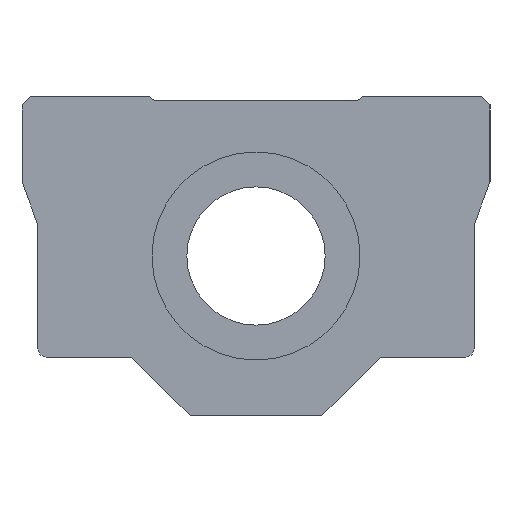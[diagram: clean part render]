
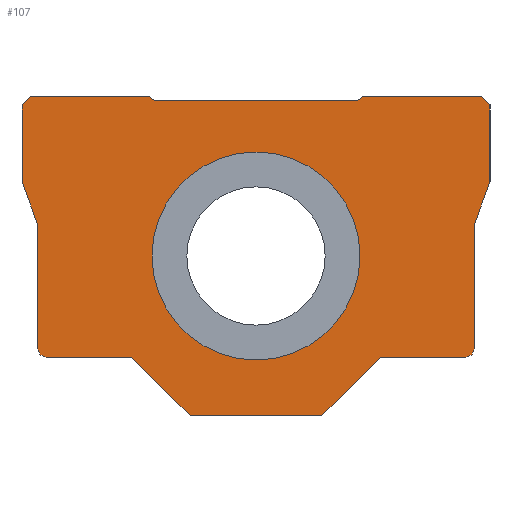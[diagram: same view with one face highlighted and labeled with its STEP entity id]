
A CAD part, left-side view. The second image highlights one B-rep face of the part: STEP entity #107.
In plain terms, the highlighted planar face has unit normal (-1, 0, 0).
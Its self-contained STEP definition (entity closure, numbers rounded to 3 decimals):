
#107 = ADVANCED_FACE( '', ( #237, #238 ), #239, .F. );
#237 = FACE_BOUND( '', #388, .T. );
#238 = FACE_OUTER_BOUND( '', #389, .T. );
#239 = PLANE( '', #390 );
#388 = EDGE_LOOP( '', ( #622 ) );
#389 = EDGE_LOOP( '', ( #623, #624, #625, #626, #627, #628, #629, #630, #631, #632, #633, #634, #635, #636, #637, #638, #639, #640, #641, #642 ) );
#390 = AXIS2_PLACEMENT_3D( '', #643, #644, #645 );
#622 = ORIENTED_EDGE( '', *, *, #862, .T. );
#623 = ORIENTED_EDGE( '', *, *, #830, .F. );
#624 = ORIENTED_EDGE( '', *, *, #857, .F. );
#625 = ORIENTED_EDGE( '', *, *, #848, .F. );
#626 = ORIENTED_EDGE( '', *, *, #863, .F. );
#627 = ORIENTED_EDGE( '', *, *, #810, .F. );
#628 = ORIENTED_EDGE( '', *, *, #864, .F. );
#629 = ORIENTED_EDGE( '', *, *, #839, .F. );
#630 = ORIENTED_EDGE( '', *, *, #854, .F. );
#631 = ORIENTED_EDGE( '', *, *, #865, .F. );
#632 = ORIENTED_EDGE( '', *, *, #834, .F. );
#633 = ORIENTED_EDGE( '', *, *, #866, .F. );
#634 = ORIENTED_EDGE( '', *, *, #789, .T. );
#635 = ORIENTED_EDGE( '', *, *, #824, .T. );
#636 = ORIENTED_EDGE( '', *, *, #814, .T. );
#637 = ORIENTED_EDGE( '', *, *, #804, .F. );
#638 = ORIENTED_EDGE( '', *, *, #860, .F. );
#639 = ORIENTED_EDGE( '', *, *, #776, .F. );
#640 = ORIENTED_EDGE( '', *, *, #819, .F. );
#641 = ORIENTED_EDGE( '', *, *, #867, .F. );
#642 = ORIENTED_EDGE( '', *, *, #781, .F. );
#643 = CARTESIAN_POINT( '', ( 0., 0., 0. ) );
#644 = DIRECTION( '', ( 1., 0., 0. ) );
#645 = DIRECTION( '', ( 0., 1., 0. ) );
#776 = EDGE_CURVE( '', #898, #900, #901, .T. );
#781 = EDGE_CURVE( '', #907, #909, #910, .T. );
#789 = EDGE_CURVE( '', #923, #921, #924, .T. );
#804 = EDGE_CURVE( '', #947, #942, #949, .T. );
#810 = EDGE_CURVE( '', #958, #960, #961, .T. );
#814 = EDGE_CURVE( '', #966, #942, #967, .T. );
#819 = EDGE_CURVE( '', #972, #898, #974, .T. );
#824 = EDGE_CURVE( '', #921, #966, #980, .T. );
#830 = EDGE_CURVE( '', #988, #907, #990, .T. );
#834 = EDGE_CURVE( '', #995, #997, #998, .T. );
#839 = EDGE_CURVE( '', #1004, #1006, #1007, .T. );
#848 = EDGE_CURVE( '', #1020, #1015, #1022, .T. );
#854 = EDGE_CURVE( '', #1029, #1004, #1031, .T. );
#857 = EDGE_CURVE( '', #1015, #988, #1034, .T. );
#860 = EDGE_CURVE( '', #900, #947, #1037, .T. );
#862 = EDGE_CURVE( '', #1039, #1039, #1040, .T. );
#863 = EDGE_CURVE( '', #960, #1020, #1041, .T. );
#864 = EDGE_CURVE( '', #1006, #958, #1042, .T. );
#865 = EDGE_CURVE( '', #997, #1029, #1043, .T. );
#866 = EDGE_CURVE( '', #923, #995, #1044, .T. );
#867 = EDGE_CURVE( '', #909, #972, #1045, .T. );
#898 = VERTEX_POINT( '', #1082 );
#900 = VERTEX_POINT( '', #1085 );
#901 = LINE( '', #1086, #1087 );
#907 = VERTEX_POINT( '', #1094 );
#909 = VERTEX_POINT( '', #1097 );
#910 = CIRCLE( '', #1098, 0.8 );
#921 = VERTEX_POINT( '', #1111 );
#923 = VERTEX_POINT( '', #1114 );
#924 = LINE( '', #1115, #1116 );
#942 = VERTEX_POINT( '', #1135 );
#947 = VERTEX_POINT( '', #1142 );
#949 = LINE( '', #1145, #1146 );
#958 = VERTEX_POINT( '', #1156 );
#960 = VERTEX_POINT( '', #1159 );
#961 = LINE( '', #1160, #1161 );
#966 = VERTEX_POINT( '', #1168 );
#967 = LINE( '', #1169, #1170 );
#972 = VERTEX_POINT( '', #1177 );
#974 = LINE( '', #1180, #1181 );
#980 = LINE( '', #1188, #1189 );
#988 = VERTEX_POINT( '', #1198 );
#990 = LINE( '', #1201, #1202 );
#995 = VERTEX_POINT( '', #1208 );
#997 = VERTEX_POINT( '', #1211 );
#998 = LINE( '', #1212, #1213 );
#1004 = VERTEX_POINT( '', #1221 );
#1006 = VERTEX_POINT( '', #1224 );
#1007 = LINE( '', #1225, #1226 );
#1015 = VERTEX_POINT( '', #1235 );
#1020 = VERTEX_POINT( '', #1242 );
#1022 = LINE( '', #1245, #1246 );
#1029 = VERTEX_POINT( '', #1254 );
#1031 = LINE( '', #1257, #1258 );
#1034 = LINE( '', #1262, #1263 );
#1037 = LINE( '', #1267, #1268 );
#1039 = VERTEX_POINT( '', #1270 );
#1040 = CIRCLE( '', #1271, 9.775 );
#1041 = LINE( '', #1272, #1273 );
#1042 = CIRCLE( '', #1274, 0.8 );
#1043 = LINE( '', #1275, #1276 );
#1044 = LINE( '', #1277, #1278 );
#1045 = LINE( '', #1279, #1280 );
#1082 = CARTESIAN_POINT( '', ( 0., 22., 7. ) );
#1085 = CARTESIAN_POINT( '', ( 0., 22., 14.2 ) );
#1086 = CARTESIAN_POINT( '', ( 0., 22., 7. ) );
#1087 = VECTOR( '', #1318, 1000. );
#1094 = CARTESIAN_POINT( '', ( 0., 19.7, -9.5 ) );
#1097 = CARTESIAN_POINT( '', ( 0., 20.5, -8.7 ) );
#1098 = AXIS2_PLACEMENT_3D( '', #1324, #1325, #1326 );
#1111 = CARTESIAN_POINT( '', ( 0., -9.5, 14.6 ) );
#1114 = CARTESIAN_POINT( '', ( 0., -10., 15. ) );
#1115 = CARTESIAN_POINT( '', ( 0., -3.043, 9.434 ) );
#1116 = VECTOR( '', #1336, 1000. );
#1135 = CARTESIAN_POINT( '', ( 0., 10., 15. ) );
#1142 = CARTESIAN_POINT( '', ( 0., 21.2, 15. ) );
#1145 = CARTESIAN_POINT( '', ( 0., 21.2, 15. ) );
#1146 = VECTOR( '', #1359, 1000. );
#1156 = CARTESIAN_POINT( '', ( 0., -19.7, -9.5 ) );
#1159 = CARTESIAN_POINT( '', ( 0., -11.698, -9.5 ) );
#1160 = CARTESIAN_POINT( '', ( 0., -19.7, -9.5 ) );
#1161 = VECTOR( '', #1368, 1000. );
#1168 = CARTESIAN_POINT( '', ( 0., 9.5, 14.6 ) );
#1169 = CARTESIAN_POINT( '', ( 0., 3.293, 9.634 ) );
#1170 = VECTOR( '', #1371, 1000. );
#1177 = CARTESIAN_POINT( '', ( 0., 20.5, 2.879 ) );
#1180 = CARTESIAN_POINT( '', ( 0., 20.5, 2.879 ) );
#1181 = VECTOR( '', #1375, 1000. );
#1188 = CARTESIAN_POINT( '', ( 0., 4.75, 14.6 ) );
#1189 = VECTOR( '', #1380, 1000. );
#1198 = CARTESIAN_POINT( '', ( 0., 11.698, -9.5 ) );
#1201 = CARTESIAN_POINT( '', ( 0., 10.198, -9.5 ) );
#1202 = VECTOR( '', #1389, 1000. );
#1208 = CARTESIAN_POINT( '', ( 0., -21.2, 15. ) );
#1211 = CARTESIAN_POINT( '', ( 0., -22., 14.2 ) );
#1212 = CARTESIAN_POINT( '', ( 0., -21.2, 15. ) );
#1213 = VECTOR( '', #1392, 1000. );
#1221 = CARTESIAN_POINT( '', ( 0., -20.5, 2.879 ) );
#1224 = CARTESIAN_POINT( '', ( 0., -20.5, -8.7 ) );
#1225 = CARTESIAN_POINT( '', ( 0., -20.5, 2.879 ) );
#1226 = VECTOR( '', #1396, 1000. );
#1235 = CARTESIAN_POINT( '', ( 0., 6.198, -15. ) );
#1242 = CARTESIAN_POINT( '', ( 0., -6.198, -15. ) );
#1245 = CARTESIAN_POINT( '', ( 0., -6.198, -15. ) );
#1246 = VECTOR( '', #1407, 1000. );
#1254 = CARTESIAN_POINT( '', ( 0., -22., 7. ) );
#1257 = CARTESIAN_POINT( '', ( 0., -22., 7. ) );
#1258 = VECTOR( '', #1413, 1000. );
#1262 = CARTESIAN_POINT( '', ( 0., 6.198, -15. ) );
#1263 = VECTOR( '', #1415, 1000. );
#1267 = CARTESIAN_POINT( '', ( 0., 22., 14.2 ) );
#1268 = VECTOR( '', #1417, 1000. );
#1270 = CARTESIAN_POINT( '', ( 0., 9.775, 0. ) );
#1271 = AXIS2_PLACEMENT_3D( '', #1418, #1419, #1420 );
#1272 = CARTESIAN_POINT( '', ( 0., -10.198, -11. ) );
#1273 = VECTOR( '', #1421, 1000. );
#1274 = AXIS2_PLACEMENT_3D( '', #1422, #1423, #1424 );
#1275 = CARTESIAN_POINT( '', ( 0., -22., 14.2 ) );
#1276 = VECTOR( '', #1425, 1000. );
#1277 = CARTESIAN_POINT( '', ( 0., 21.2, 15. ) );
#1278 = VECTOR( '', #1426, 1000. );
#1279 = CARTESIAN_POINT( '', ( 0., 20.5, -10.2 ) );
#1280 = VECTOR( '', #1427, 1000. );
#1318 = DIRECTION( '', ( 0., 0., 1. ) );
#1324 = CARTESIAN_POINT( '', ( 0., 19.7, -8.7 ) );
#1325 = DIRECTION( '', ( 1., 0., 0. ) );
#1326 = DIRECTION( '', ( 0., 0., -1. ) );
#1336 = DIRECTION( '', ( 0., 0.781, -0.625 ) );
#1359 = DIRECTION( '', ( 0., -1., 0. ) );
#1368 = DIRECTION( '', ( 0., 1., 0. ) );
#1371 = DIRECTION( '', ( 0., 0.781, 0.625 ) );
#1375 = DIRECTION( '', ( 0., 0.342, 0.94 ) );
#1380 = DIRECTION( '', ( 0., 1., 0. ) );
#1389 = DIRECTION( '', ( 0., 1., 0. ) );
#1392 = DIRECTION( '', ( 0., -0.707, -0.707 ) );
#1396 = DIRECTION( '', ( 0., 0., -1. ) );
#1407 = DIRECTION( '', ( 0., 1., 0. ) );
#1413 = DIRECTION( '', ( 0., 0.342, -0.94 ) );
#1415 = DIRECTION( '', ( 0., 0.707, 0.707 ) );
#1417 = DIRECTION( '', ( 0., -0.707, 0.707 ) );
#1418 = CARTESIAN_POINT( '', ( 0., 0., 0. ) );
#1419 = DIRECTION( '', ( 1., 0., 0. ) );
#1420 = DIRECTION( '', ( 0., 1., 0. ) );
#1421 = DIRECTION( '', ( 0., 0.707, -0.707 ) );
#1422 = CARTESIAN_POINT( '', ( 0., -19.7, -8.7 ) );
#1423 = DIRECTION( '', ( 1., 0., 0. ) );
#1424 = DIRECTION( '', ( 0., -1., 0. ) );
#1425 = DIRECTION( '', ( 0., 0., -1. ) );
#1426 = DIRECTION( '', ( 0., -1., 0. ) );
#1427 = DIRECTION( '', ( 0., 0., 1. ) );
